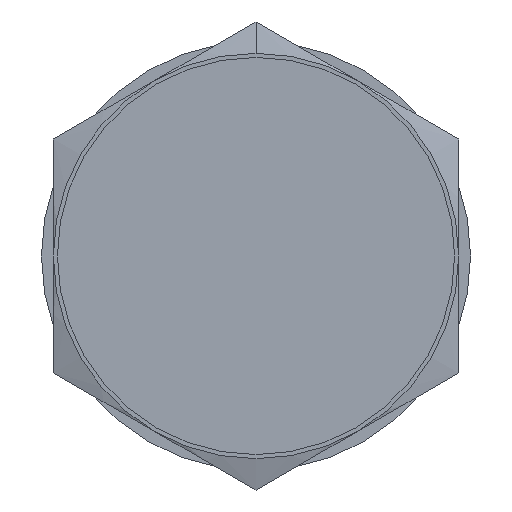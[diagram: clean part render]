
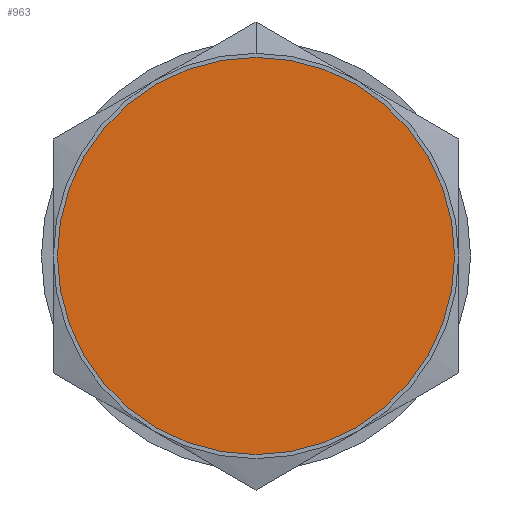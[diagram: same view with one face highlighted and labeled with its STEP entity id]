
A CAD part, front view. The second image highlights one B-rep face of the part: STEP entity #963.
In plain terms, the highlighted planar face has unit normal (0, -1, 0).
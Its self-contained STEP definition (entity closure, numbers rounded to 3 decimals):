
#47 = AXIS2_PLACEMENT_3D ( 'NONE', #131, #1352, #1612 ) ;
#87 = DIRECTION ( 'NONE',  ( 0., 0., -1. ) ) ;
#131 = CARTESIAN_POINT ( 'NONE',  ( 0., -4.9, 0. ) ) ;
#209 = DIRECTION ( 'NONE',  ( 0., -1., 0. ) ) ;
#251 = DIRECTION ( 'NONE',  ( 1., 0., 0. ) ) ;
#434 = EDGE_CURVE ( 'NONE', #1479, #1185, #605, .T. ) ;
#470 = EDGE_LOOP ( 'NONE', ( #551, #682 ) ) ;
#551 = ORIENTED_EDGE ( 'NONE', *, *, #940, .T. ) ;
#578 = AXIS2_PLACEMENT_3D ( 'NONE', #761, #209, #87 ) ;
#605 = CIRCLE ( 'NONE', #578, 8.331 ) ;
#682 = ORIENTED_EDGE ( 'NONE', *, *, #434, .T. ) ;
#761 = CARTESIAN_POINT ( 'NONE',  ( 0., -4.9, 0. ) ) ;
#940 = EDGE_CURVE ( 'NONE', #1185, #1479, #1083, .T. ) ;
#963 = ADVANCED_FACE ( 'NONE', ( #1630 ), #1641, .F. ) ;
#964 = CARTESIAN_POINT ( 'NONE',  ( 8.331, -4.9, 0. ) ) ;
#1074 = DIRECTION ( 'NONE',  ( 0., 1., 0. ) ) ;
#1083 = CIRCLE ( 'NONE', #47, 8.331 ) ;
#1185 = VERTEX_POINT ( 'NONE', #1498 ) ;
#1352 = DIRECTION ( 'NONE',  ( 0., -1., 0. ) ) ;
#1479 = VERTEX_POINT ( 'NONE', #1542 ) ;
#1498 = CARTESIAN_POINT ( 'NONE',  ( 0., -4.9, -8.331 ) ) ;
#1517 = AXIS2_PLACEMENT_3D ( 'NONE', #964, #1074, #251 ) ;
#1542 = CARTESIAN_POINT ( 'NONE',  ( 0., -4.9, 8.331 ) ) ;
#1612 = DIRECTION ( 'NONE',  ( 0., 0., -1. ) ) ;
#1630 = FACE_OUTER_BOUND ( 'NONE', #470, .T. ) ;
#1641 = PLANE ( 'NONE',  #1517 ) ;
